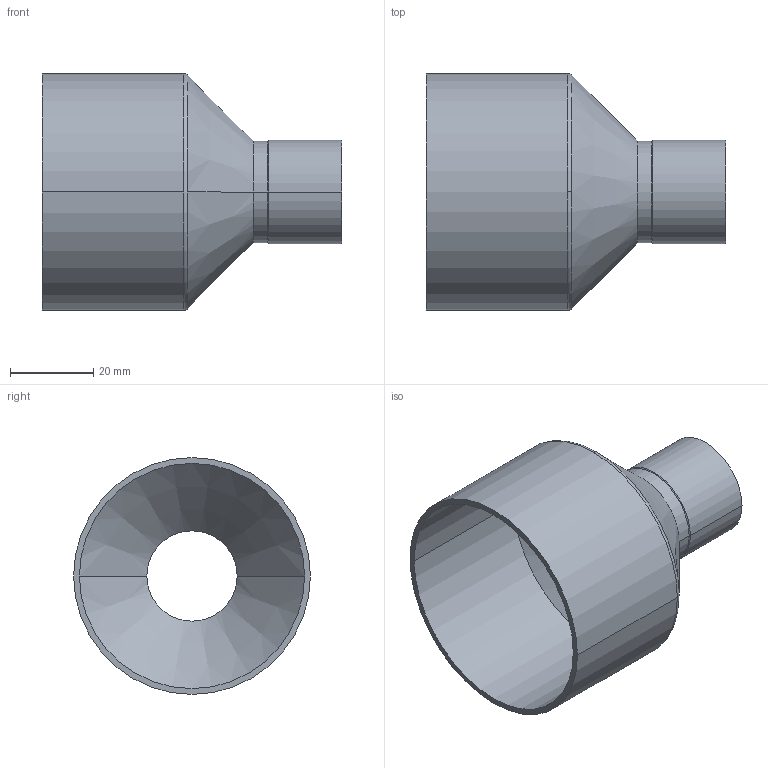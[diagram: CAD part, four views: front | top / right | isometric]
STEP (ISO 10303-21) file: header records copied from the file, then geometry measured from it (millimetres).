
FILE_DESCRIPTION((''),'2;1');
FILE_NAME('G:\Technics\CAD\Bauteile\Serie 15240\152405422.stp','2005-10-21T12:51:15',('boden'),(''),'Autodesk Inventor 8','Autodesk Inventor 8','');
FILE_SCHEMA(('AUTOMOTIVE_DESIGN { 1 0 10303 214 1 1 1 1 }'));
Length unit declared in the file: millimetre
Products named in the file (1): 152405422
Bounding box: 72 x 56.95 x 56.95 mm (x, y, z)
Volume: 14563.1 mm3; surface area: 21152 mm2
Topology: 1 solids, 1 shells, 24 faces, 52 edges, 30 vertices
Faces by surface type: cylinder 12, cone 8, torus 2, plane 2
Entity records: 683 total; most frequent: DIRECTION 134, CARTESIAN_POINT 107, ORIENTED_EDGE 104, AXIS2_PLACEMENT_3D 57, EDGE_CURVE 52, CIRCLE 32, VERTEX_POINT 30, EDGE_LOOP 26
